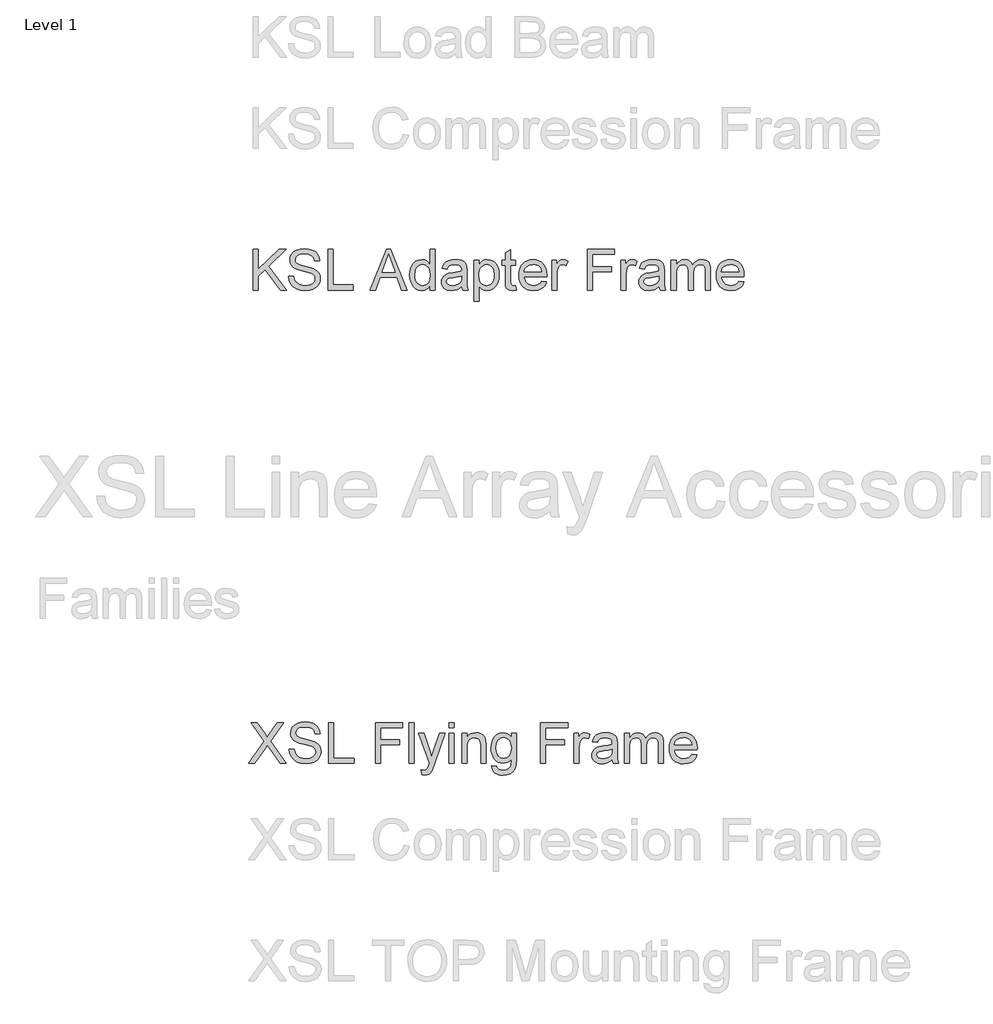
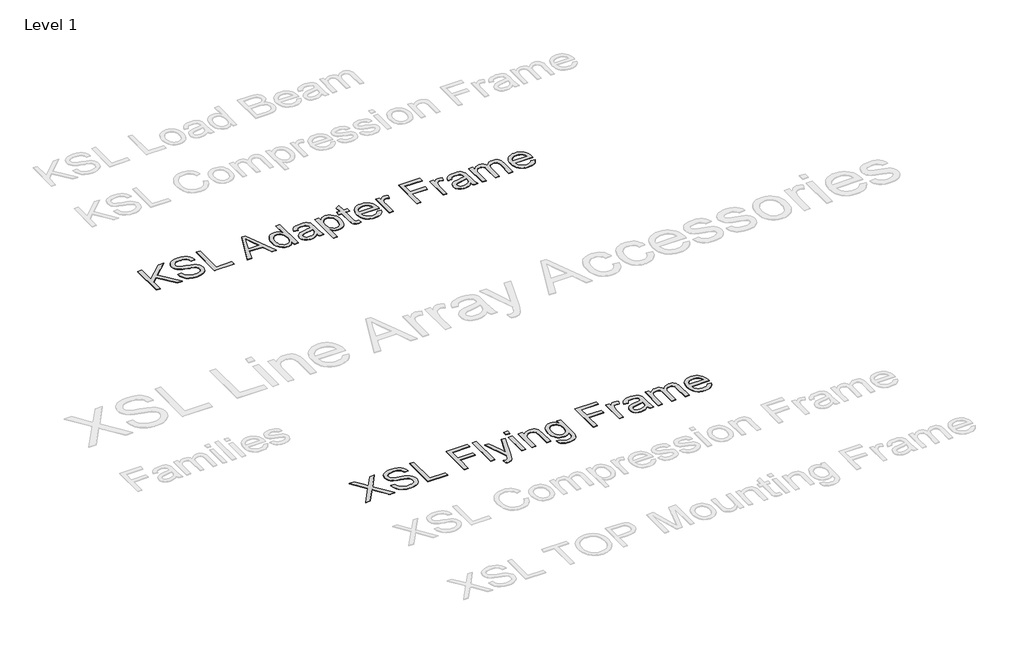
# One storey, part 9 of 52: 2 proxies.
"""IFC4 building model written with IfcOpenShell, lengths in millimetres."""

from ifc_helpers import new_model, si_unit, origin, origin_with_axes, place, context, project, spatial, polyline, outline, extrude, element, save

model = new_model("IFC4")

# Units and contexts
model_context = context("Model", 3, world=origin())
ifc_project = project(units=[si_unit("LENGTHUNIT", "METRE", prefix="MILLI")], contexts=[model_context])

# Site, building, storey
site = spatial("IfcSite", under=ifc_project)
building = spatial("IfcBuilding", under=site)
storey = spatial("IfcBuildingStorey", under=building, Name="Level 1", Elevation=0.0)

# Proxies
placement = place(None, origin())
element("IfcBuildingElementProxy", 1, Name="400mm Arial", ObjectType="400mm Arial", at=placement, inside=storey, context=model_context, shape_type="SweptSolid", body=[
    extrude(outline(polyline([(-18951.0715058, -58022.6117308), (-18951.0715058, -57620.7864902), (-18900.8433507, -57620.7864902), (-18900.8433507, -57817.4807303), (-18694.8294334, -57620.7864902), (-18624.5884978, -57620.7864902), (-18797.5420864, -57785.9900315), (-18618.3099784, -58022.6117308), (-18679.7217461, -58022.6117308), (-18833.1530636, -57819.933277), (-18900.8433507, -57884.4843044), (-18900.8433507, -58022.6117308), (-18951.0715058, -58022.6117308)])), origin_with_axes(), (0.0, 0.0, 1.0), 5.0),
    extrude(outline(polyline([(-18599.4744202, -57884.4843044), (-18549.2462652, -57884.4843044), (-18543.4827806, -57912.3574969), (-18533.0594574, -57934.7615104), (-18516.7990732, -57952.5424735), (-18493.5244056, -57966.5465148), (-18465.0748647, -57975.6332001), (-18433.2898603, -57978.6620952), (-18405.3063032, -57976.3689641), (-18380.8053623, -57969.4895707), (-18360.9519973, -57958.6002637), (-18346.9111678, -57944.2773913), (-18338.5602465, -57927.8330662), (-18335.7766061, -57910.5794006), (-18337.8612707, -57893.7671934), (-18344.1152646, -57879.2358546), (-18356.8194562, -57866.8382314), (-18378.2547138, -57856.4271709), (-18451.3896544, -57837.2482562), (-18499.3982548, -57824.5563274), (-18530.1164014, -57812.4775352), (-18555.1201143, -57795.5794889), (-18572.8397638, -57775.1007245), (-18583.397977, -57751.4827004), (-18586.9173815, -57725.166875), (-18582.5641112, -57695.7485781), (-18569.5043004, -57668.316844), (-18548.0813055, -57645.0667019), (-18518.6384832, -57628.1931811), (-18483.2972862, -57617.9292734), (-18444.1791673, -57614.5079709), (-18401.7991615, -57618.0886889), (-18364.7166564, -57628.8308432), (-18334.2560272, -57646.5137044), (-18311.7416491, -57670.9165435), (-18297.4923531, -57700.5187813), (-18291.8269704, -57733.7998392), (-18342.0551255, -57733.7998392), (-18351.2767008, -57703.8297193), (-18359.6398848, -57691.9716563), (-18370.5046664, -57682.198258), (-18400.5483627, -57669.1016589), (-18442.21713, -57664.7361259), (-18484.866916, -57669.052608), (-18501.1702198, -57674.4482106), (-18514.1257973, -57682.0020542), (-18531.0483691, -57701.0583416), (-18536.6892264, -57723.695347), (-18532.6915754, -57742.996889), (-18520.6986223, -57758.5215092), (-18492.3471832, -57772.4029232), (-18438.6854629, -57786.5786427), (-18383.3069599, -57800.0431238), (-18349.8051728, -57811.7908221), (-18321.1716909, -57830.0132436), (-18301.1956985, -57852.5030963), (-18289.4602629, -57879.0151254), (-18285.548451, -57909.3040763), (-18290.0488741, -57940.2674776), (-18303.5501433, -57969.3914689), (-18325.5004357, -57994.4564955), (-18355.3479282, -58013.2430027), (-18391.2409482, -58024.9784383), (-18431.327823, -58028.8902502), (-18480.5381712, -58024.67187), (-18521.0419789, -58012.0167294), (-18553.3052298, -57990.8757774), (-18577.793908, -57961.1999631), (-18593.5147319, -57925.0494257), (-18599.4744202, -57884.4843044)])), origin_with_axes(), (0.0, 0.0, 1.0), 5.0),
    extrude(outline(polyline([(-18210.2062184, -58022.6117308), (-18210.2062184, -57620.7864902), (-18159.9780633, -57620.7864902), (-18159.9780633, -57972.3835758), (-17959.065443, -57972.3835758), (-17959.065443, -58022.6117308), (-18210.2062184, -58022.6117308)])), origin_with_axes(), (0.0, 0.0, 1.0), 5.0),
    extrude(outline(polyline([(-17792.3903737, -58022.6117308), (-17631.9938238, -57620.7864902), (-17589.2214105, -57620.7864902), (-17428.8248606, -58022.6117308), (-17481.8979698, -58022.6117308), (-17527.9077447, -57897.0413432), (-17693.4055916, -57897.0413432), (-17739.3172646, -58022.6117308), (-17792.3903737, -58022.6117308)]), holes=[polyline([(-17674.9624409, -57846.8131881), (-17546.2527935, -57846.8131881), (-17582.4523818, -57748.0246096), (-17610.6076172, -57671.0146453), (-17635.6235929, -57739.3916455), (-17674.9624409, -57846.8131881)])]), origin_with_axes(), (0.0, 0.0, 1.0), 5.0),
    extrude(outline(polyline([(-17199.3645975, -58022.6117308), (-17199.3645975, -57975.2285299), (-17214.392577, -57998.7055325), (-17232.5966044, -58015.4748201), (-17253.9766797, -58025.5363927), (-17278.5328029, -58028.8902502), (-17311.0045203, -58024.0342079), (-17340.7293855, -58009.4660809), (-17365.892514, -57986.2036761), (-17384.6790212, -57955.2648003), (-17396.3776687, -57917.9002523), (-17400.2772178, -57875.3608309), (-17396.684237, -57833.3487071), (-17385.9052945, -57795.4078106), (-17367.9526532, -57763.6963826), (-17342.8385756, -57740.3726641), (-17312.4637856, -57726.0252663), (-17278.7290066, -57721.2428004), (-17254.1544893, -57724.664103), (-17232.4249262, -57734.9280106), (-17214.0063009, -57750.6610973), (-17199.3645975, -57770.4899368), (-17199.3645975, -57620.7864902), (-17149.1364424, -57620.7864902), (-17149.1364424, -58022.6117308), (-17199.3645975, -58022.6117308)]), holes=[polyline([(-17350.0490627, -57875.1646272), (-17348.6327171, -57899.5214809), (-17344.38368, -57920.5980536), (-17337.3019516, -57938.3943451), (-17327.3875318, -57952.9103555), (-17302.6903872, -57972.2241602), (-17288.8151046, -57977.0526114), (-17273.9220152, -57978.6620952), (-17258.9584151, -57977.1261878), (-17245.1659059, -57972.5184658), (-17221.0941607, -57954.0875779), (-17211.5874768, -57940.1785728), (-17204.7969883, -57923.0260748), (-17199.3645975, -57878.9905999), (-17204.8950902, -57830.8471095), (-17211.808206, -57812.3119883), (-17221.4865682, -57797.4679498), (-17233.1882813, -57786.0942648), (-17246.17145, -57777.9702041), (-17260.4360744, -57773.0957676), (-17275.9821544, -57771.4709555), (-17291.1695494, -57773.0313883), (-17305.044832, -57777.7126867), (-17317.6080021, -57785.5148506), (-17328.8590598, -57796.4378802), (-17338.1296861, -57810.7208987), (-17344.751562, -57828.6030293), (-17350.0490627, -57875.1646272)])]), origin_with_axes(), (0.0, 0.0, 1.0), 5.0),
    extrude(outline(polyline([(-16885.4386283, -57984.9406145), (-16909.4367971, -58005.5174808), (-16934.1462045, -58018.9819618), (-16960.1309361, -58026.4131781), (-16987.9550776, -58028.8902502), (-17010.3192372, -58027.4003281), (-17029.9304133, -58022.9305619), (-17046.7886057, -58015.4809515), (-17060.8938145, -58005.0514969), (-17072.0314419, -57992.3043858), (-17079.9868901, -57977.9018057), (-17084.760159, -57961.8437566), (-17086.3512486, -57944.1302385), (-17083.9477529, -57923.3081176), (-17076.7372658, -57904.3989831), (-17065.6149668, -57888.2121753), (-17051.4760355, -57875.5570346), (-17034.860032, -57865.9921028), (-17016.3065167, -57859.0759213), (-16972.8473904, -57851.5220776), (-16921.4910638, -57843.5758265), (-16885.7329339, -57834.2561493), (-16885.4386283, -57823.0725367), (-16888.8967191, -57800.6562604), (-16899.2709913, -57785.9900315), (-16922.4720825, -57775.1007245), (-16954.7966471, -57771.4709555), (-16984.7177161, -57773.8867139), (-17005.6134134, -57781.1339892), (-17019.8627093, -57794.5371566), (-17029.8445741, -57815.4205912), (-17080.0727292, -57809.1420718), (-17071.3539259, -57781.6735495), (-17058.343166, -57760.0911391), (-17039.8264389, -57743.5855002), (-17014.5897341, -57731.3472925), (-16983.7244347, -57723.7689234), (-16948.321924, -57721.2428004), (-16914.3664159, -57723.4746178), (-16887.4497165, -57730.1700701), (-16867.1548931, -57740.2377741), (-16853.0650127, -57752.5863464), (-16843.72081, -57767.8534492), (-16837.6630199, -57786.6767446), (-16835.2104732, -57830.6263803), (-16835.2104732, -57893.1172685), (-16832.6598247, -57980.3788778), (-16822.6534345, -58022.6117308), (-16872.8815895, -58022.6117308), (-16880.9259425, -58005.1495988), (-16885.4386283, -57984.9406145)]), holes=[polyline([(-16885.4386283, -57884.4843044), (-16919.18567, -57892.8474884), (-16966.4707691, -57899.8862973), (-17009.6846408, -57908.0287521), (-17020.9295671, -57913.5960329), (-17029.2559629, -57921.2725039), (-17034.4063109, -57930.4695538), (-17036.1230935, -57940.5985714), (-17032.3829599, -57955.5345804), (-17021.1625591, -57967.7727881), (-17002.7071456, -57975.9397684), (-16977.2619743, -57978.6620952), (-16950.2839613, -57975.6577255), (-16926.445208, -57966.6446166), (-16907.1191406, -57953.3640766), (-16893.679185, -57937.5574136), (-16887.7194967, -57921.2725039), (-16885.7329339, -57898.7090749), (-16885.4386283, -57884.4843044)])]), origin_with_axes(), (0.0, 0.0, 1.0), 5.0),
    extrude(outline(polyline([(-16766.14676, -58135.6250798), (-16766.14676, -57727.5213198), (-16715.9186049, -57727.5213198), (-16715.9186049, -57776.7684562), (-16699.5355934, -57752.4759818), (-16681.1905446, -57735.1242143), (-16659.8043379, -57724.7131539), (-16634.2978529, -57721.2428004), (-16600.330082, -57726.0988427), (-16570.6297423, -57740.6669697), (-16546.4476325, -57764.0642646), (-16529.0345514, -57795.4078106), (-16518.5131263, -57832.4167393), (-16515.0059846, -57872.8101824), (-16518.9668474, -57915.7665367), (-16530.8494359, -57954.1856797), (-16550.2736052, -57986.1178369), (-16576.8592107, -58009.6132337), (-16607.822612, -58024.0709961), (-16640.3801686, -58028.8902502), (-16663.4708951, -58025.6651514), (-16684.0845496, -58015.9898549), (-16701.7306226, -58001.3849397), (-16715.9186049, -57983.3709847), (-16715.9186049, -58135.6250798), (-16766.14676, -58135.6250798)]), holes=[polyline([(-16715.9186049, -57877.4209701), (-16710.4862141, -57922.4497263), (-16703.6957256, -57939.8873329), (-16694.1890417, -57953.9404251), (-16670.141822, -57972.4816776), (-16656.3799697, -57977.1169908), (-16641.4592891, -57978.6620952), (-16626.3240107, -57977.0618085), (-16612.3107723, -57972.2609484), (-16599.4195741, -57964.259515), (-16587.6504159, -57953.0575083), (-16577.8432951, -57938.4955126), (-16570.8382088, -57920.4141126), (-16566.635157, -57898.8133081), (-16565.2341397, -57873.6930992), (-16570.7033187, -57828.9095977), (-16577.5397924, -57811.337101), (-16587.1108557, -57796.9774405), (-16611.1212872, -57777.8475767), (-16624.7267897, -57773.0651108), (-16639.3991499, -57771.4709555), (-16654.0255249, -57773.1662783), (-16667.7873772, -57778.2522469), (-16692.7175138, -57798.5961212), (-16702.8679911, -57813.6946115), (-16710.1183321, -57831.8649163), (-16714.4685367, -57853.1070359), (-16715.9186049, -57877.4209701)])]), origin_with_axes(), (0.0, 0.0, 1.0), 5.0),
    extrude(outline(polyline([(-16351.7644806, -57980.7222343), (-16345.4859612, -58024.0832588), (-16383.0589757, -58028.8902502), (-16407.1675091, -58026.8055856), (-16425.1446759, -58020.5515917), (-16437.8488675, -58010.9130834), (-16446.1384751, -57998.6748757), (-16450.7002119, -57977.656551), (-16452.2207908, -57941.6776919), (-16452.2207908, -57777.7494749), (-16489.8919071, -57777.7494749), (-16489.8919071, -57727.5213198), (-16452.2207908, -57727.5213198), (-16452.2207908, -57655.8088562), (-16401.9926357, -57626.2801947), (-16401.9926357, -57727.5213198), (-16351.7644806, -57727.5213198), (-16351.7644806, -57777.7494749), (-16401.9926357, -57777.7494749), (-16401.9926357, -57940.2061639), (-16399.3438853, -57966.1050564), (-16390.7599721, -57975.2775808), (-16373.6411966, -57978.6620952), (-16351.7644806, -57980.7222343)])), origin_with_axes(), (0.0, 0.0, 1.0), 5.0),
    extrude(outline(polyline([(-16094.9337971, -57934.7124595), (-16045.6866606, -57940.9909788), (-16053.2374386, -57960.7155852), (-16063.4308355, -57978.0980094), (-16076.2668515, -57993.1382517), (-16091.7454864, -58005.8363119), (-16109.7073249, -58015.9224099), (-16129.9929512, -58023.1267656), (-16177.5355677, -58028.8902502), (-16208.7013041, -58026.4039811), (-16236.4702633, -58018.9451736), (-16260.8424455, -58006.5138279), (-16281.8178506, -57989.1099438), (-16298.6852401, -57967.2178994), (-16310.7333754, -57941.3220726), (-16317.9622566, -57911.4224635), (-16320.3718837, -57877.5190719), (-16317.9377312, -57842.4660492), (-16310.6352736, -57811.5700929), (-16298.4645109, -57784.8312033), (-16281.4254432, -57762.2493801), (-16260.5052204, -57744.3090015), (-16236.6909925, -57731.4944453), (-16209.9827597, -57723.8057116), (-16180.3805218, -57721.2428004), (-16151.7317114, -57723.7995803), (-16125.8236219, -57731.4699199), (-16102.6562533, -57744.2538192), (-16082.2296055, -57762.1512783), (-16065.5553541, -57784.6840505), (-16053.6451745, -57811.3738892), (-16046.4990667, -57842.2207945), (-16044.1170308, -57877.2247664), (-16044.4113364, -57890.7628238), (-16270.1437286, -57890.7628238), (-16267.2343952, -57910.8062611), (-16261.4494508, -57928.3603637), (-16252.7888955, -57943.4251314), (-16241.2527293, -57956.0005643), (-16227.4786142, -57965.914984), (-16212.1042125, -57972.9967124), (-16176.5545491, -57978.6620952), (-16149.8217907, -57976.0378703), (-16127.3074126, -57968.1651956), (-16109.0114147, -57954.5535617), (-16094.9337971, -57934.7124595)]), holes=[polyline([(-16270.1437286, -57840.5346687), (-16094.3451859, -57840.5346687), (-16101.1387401, -57813.9981141), (-16114.4560683, -57795.0154032), (-16128.1535412, -57784.7147073), (-16143.7394751, -57777.3570674), (-16161.2138699, -57772.9424835), (-16180.5767255, -57771.4709555), (-16214.4341318, -57776.1675823), (-16242.4299517, -57790.2574627), (-16261.8909092, -57812.2200178), (-16270.1437286, -57840.5346687)])]), origin_with_axes(), (0.0, 0.0, 1.0), 5.0),
    extrude(outline(polyline([(-15993.8888757, -58022.6117308), (-15993.8888757, -57727.5213198), (-15949.93924, -57727.5213198), (-15949.93924, -57771.1766499), (-15933.7033813, -57745.8663686), (-15918.7428468, -57730.9548851), (-15903.7332614, -57723.6708216), (-15887.3502499, -57721.2428004), (-15862.3342742, -57725.1178241), (-15836.9258911, -57736.7428951), (-15853.7013101, -57781.7716513), (-15871.3596459, -57774.0461294), (-15889.0179816, -57771.4709555), (-15904.0153043, -57773.9480276), (-15917.4184717, -57781.3792439), (-15928.2464651, -57793.2005187), (-15935.5182658, -57808.8477662), (-15941.6251069, -57836.9048997), (-15943.6607206, -57867.5126817), (-15943.6607206, -58022.6117308), (-15993.8888757, -58022.6117308)])), origin_with_axes(), (0.0, 0.0, 1.0), 5.0),
    extrude(outline(polyline([(-15642.2917902, -58022.6117308), (-15642.2917902, -57620.7864902), (-15372.3154567, -57620.7864902), (-15372.3154567, -57671.0146453), (-15592.0636351, -57671.0146453), (-15592.0636351, -57790.3065136), (-15403.7080536, -57790.3065136), (-15403.7080536, -57840.5346687), (-15592.0636351, -57840.5346687), (-15592.0636351, -58022.6117308), (-15642.2917902, -58022.6117308)])), origin_with_axes(), (0.0, 0.0, 1.0), 5.0),
    extrude(outline(polyline([(-15309.5302628, -58022.6117308), (-15309.5302628, -57727.5213198), (-15265.5806271, -57727.5213198), (-15265.5806271, -57771.1766499), (-15249.3447684, -57745.8663686), (-15234.3842339, -57730.9548851), (-15219.3746485, -57723.6708216), (-15202.991637, -57721.2428004), (-15177.9756614, -57725.1178241), (-15152.5672782, -57736.7428951), (-15169.3426972, -57781.7716513), (-15187.001033, -57774.0461294), (-15204.6593687, -57771.4709555), (-15219.6566914, -57773.9480276), (-15233.0598588, -57781.3792439), (-15243.8878522, -57793.2005187), (-15251.1596529, -57808.8477662), (-15257.266494, -57836.9048997), (-15259.3021078, -57867.5126817), (-15259.3021078, -58022.6117308), (-15309.5302628, -58022.6117308)])), origin_with_axes(), (0.0, 0.0, 1.0), 5.0),
    extrude(outline(polyline([(-14932.8190998, -57984.9406145), (-14956.8172686, -58005.5174808), (-14981.5266759, -58018.9819618), (-15007.5114075, -58026.4131781), (-15035.3355491, -58028.8902502), (-15057.6997087, -58027.4003281), (-15077.3108847, -58022.9305619), (-15094.1690772, -58015.4809515), (-15108.274286, -58005.0514969), (-15119.4119134, -57992.3043858), (-15127.3673616, -57977.9018057), (-15132.1406304, -57961.8437566), (-15133.7317201, -57944.1302385), (-15131.3282244, -57923.3081176), (-15124.1177373, -57904.3989831), (-15112.9954383, -57888.2121753), (-15098.8565069, -57875.5570346), (-15082.2405035, -57865.9921028), (-15063.6869882, -57859.0759213), (-15020.2278618, -57851.5220776), (-14968.8715353, -57843.5758265), (-14933.1134054, -57834.2561493), (-14932.8190998, -57823.0725367), (-14936.2771905, -57800.6562604), (-14946.6514628, -57785.9900315), (-14969.8525539, -57775.1007245), (-15002.1771186, -57771.4709555), (-15032.0981875, -57773.8867139), (-15052.9938849, -57781.1339892), (-15067.2431808, -57794.5371566), (-15077.2250456, -57815.4205912), (-15127.4532007, -57809.1420718), (-15118.7343974, -57781.6735495), (-15105.7236375, -57760.0911391), (-15087.2069104, -57743.5855002), (-15061.9702055, -57731.3472925), (-15031.1049061, -57723.7689234), (-14995.7023955, -57721.2428004), (-14961.7468873, -57723.4746178), (-14934.830188, -57730.1700701), (-14914.5353646, -57740.2377741), (-14900.4454842, -57752.5863464), (-14891.1012815, -57767.8534492), (-14885.0434913, -57786.6767446), (-14882.5909447, -57830.6263803), (-14882.5909447, -57893.1172685), (-14880.0402962, -57980.3788778), (-14870.0339059, -58022.6117308), (-14920.262061, -58022.6117308), (-14928.306414, -58005.1495988), (-14932.8190998, -57984.9406145)]), holes=[polyline([(-14932.8190998, -57884.4843044), (-14966.5661415, -57892.8474884), (-15013.8512406, -57899.8862973), (-15057.0651123, -57908.0287521), (-15068.3100386, -57913.5960329), (-15076.6364344, -57921.2725039), (-15081.7867823, -57930.4695538), (-15083.503565, -57940.5985714), (-15079.7634314, -57955.5345804), (-15068.5430305, -57967.7727881), (-15050.0876171, -57975.9397684), (-15024.6424458, -57978.6620952), (-14997.6644328, -57975.6577255), (-14973.8256795, -57966.6446166), (-14954.499612, -57953.3640766), (-14941.0596565, -57937.5574136), (-14935.0999681, -57921.2725039), (-14933.1134054, -57898.7090749), (-14932.8190998, -57884.4843044)])]), origin_with_axes(), (0.0, 0.0, 1.0), 5.0),
    extrude(outline(polyline([(-14813.5272315, -58022.6117308), (-14813.5272315, -57727.5213198), (-14763.2990764, -57727.5213198), (-14763.2990764, -57776.0817431), (-14748.1913891, -57753.7758315), (-14728.7672198, -57736.3014367), (-14705.6887559, -57725.0074595), (-14679.6181852, -57721.2428004), (-14651.6836791, -57725.0810359), (-14629.2919283, -57736.5957423), (-14612.5655602, -57755.0266303), (-14601.6272022, -57779.6134103), (-14583.3189416, -57754.0762685), (-14562.435507, -57735.8354529), (-14538.9768985, -57724.8909635), (-14512.9431159, -57721.2428004), (-14492.8352992, -57722.7603136), (-14475.1861605, -57727.3128533), (-14459.9956998, -57734.9004195), (-14447.2639171, -57745.5230121), (-14437.1992788, -57759.3032585), (-14430.0102515, -57776.363786), (-14425.6968351, -57796.7045947), (-14424.2590296, -57820.3256844), (-14424.2590296, -58022.6117308), (-14474.4871847, -58022.6117308), (-14474.4871847, -57841.9080948), (-14475.6521444, -57816.8553309), (-14479.1470233, -57799.9695474), (-14485.6953228, -57788.40579), (-14496.0205442, -57779.3191047), (-14509.3010842, -57773.4329928), (-14524.7153398, -57771.4709555), (-14551.9263447, -57776.4986761), (-14574.109629, -57791.5818379), (-14582.715002, -57803.1517266), (-14588.861697, -57817.7505105), (-14593.779053, -57856.0347634), (-14593.779053, -58022.6117308), (-14644.0072081, -58022.6117308), (-14644.0072081, -57836.3162885), (-14646.9134759, -57807.9157985), (-14655.6322791, -57787.6577633), (-14670.9729583, -57775.5176574), (-14693.7448538, -57771.4709555), (-14713.0954468, -57774.1687568), (-14730.9254608, -57782.2621607), (-14745.6407406, -57795.5549634), (-14755.6471309, -57813.8509613), (-14761.38609, -57839.234819), (-14763.2990764, -57873.7912011), (-14763.2990764, -58022.6117308), (-14813.5272315, -58022.6117308)])), origin_with_axes(), (0.0, 0.0, 1.0), 5.0),
    extrude(outline(polyline([(-14142.3142685, -57934.7124595), (-14093.0671321, -57940.9909788), (-14100.6179101, -57960.7155852), (-14110.811307, -57978.0980094), (-14123.647323, -57993.1382517), (-14139.1259579, -58005.8363119), (-14157.0877963, -58015.9224099), (-14177.3734227, -58023.1267656), (-14224.9160392, -58028.8902502), (-14256.0817755, -58026.4039811), (-14283.8507348, -58018.9451736), (-14308.222917, -58006.5138279), (-14329.1983221, -57989.1099438), (-14346.0657116, -57967.2178994), (-14358.1138469, -57941.3220726), (-14365.3427281, -57911.4224635), (-14367.7523552, -57877.5190719), (-14365.3182026, -57842.4660492), (-14358.015745, -57811.5700929), (-14345.8449824, -57784.8312033), (-14328.8059146, -57762.2493801), (-14307.8856918, -57744.3090015), (-14284.071464, -57731.4944453), (-14257.3632312, -57723.8057116), (-14227.7609933, -57721.2428004), (-14199.1121829, -57723.7995803), (-14173.2040934, -57731.4699199), (-14150.0367247, -57744.2538192), (-14129.610077, -57762.1512783), (-14112.9358255, -57784.6840505), (-14101.0256459, -57811.3738892), (-14093.8795382, -57842.2207945), (-14091.4975023, -57877.2247664), (-14091.7918079, -57890.7628238), (-14317.5242001, -57890.7628238), (-14314.6148667, -57910.8062611), (-14308.8299223, -57928.3603637), (-14300.169367, -57943.4251314), (-14288.6332007, -57956.0005643), (-14274.8590857, -57965.914984), (-14259.484684, -57972.9967124), (-14223.9350205, -57978.6620952), (-14197.2022622, -57976.0378703), (-14174.6878841, -57968.1651956), (-14156.3918862, -57954.5535617), (-14142.3142685, -57934.7124595)]), holes=[polyline([(-14317.5242001, -57840.5346687), (-14141.7256573, -57840.5346687), (-14148.5192115, -57813.9981141), (-14161.8365397, -57795.0154032), (-14175.5340127, -57784.7147073), (-14191.1199466, -57777.3570674), (-14208.5943413, -57772.9424835), (-14227.957197, -57771.4709555), (-14261.8146033, -57776.1675823), (-14289.8104231, -57790.2574627), (-14309.2713807, -57812.2200178), (-14317.5242001, -57840.5346687)])]), origin_with_axes(), (0.0, 0.0, 1.0), 5.0),
])
element("IfcBuildingElementProxy", 2, Name="400mm Arial", ObjectType="400mm Arial", at=placement, inside=storey, context=model_context, shape_type="SweptSolid", body=[
    extrude(outline(polyline([(-18995.0211414, -62703.132514), (-18840.118296, -62484.1691504), (-18969.9070639, -62301.3072734), (-18909.6725186, -62301.3072734), (-18836.5866289, -62404.2161301), (-18811.9630606, -62444.3397931), (-18783.1211122, -62403.5294171), (-18710.8200374, -62301.3072734), (-18649.7025753, -62301.3072734), (-18779.4913432, -62484.7577616), (-18624.5884978, -62703.132514), (-18684.8230431, -62703.132514), (-18788.0262055, -62557.5493457), (-18809.510514, -62527.3339712), (-18833.1530636, -62560.4924017), (-18933.9036793, -62703.132514), (-18995.0211414, -62703.132514)])), origin_with_axes(), (0.0, 0.0, 1.0), 5.0),
    extrude(outline(polyline([(-18593.1959008, -62565.0050875), (-18542.9677458, -62565.0050875), (-18537.2042612, -62592.87828), (-18526.780938, -62615.2822935), (-18510.5205538, -62633.0632566), (-18487.2458862, -62647.0672979), (-18458.7963453, -62656.1539832), (-18427.0113409, -62659.1828783), (-18399.0277838, -62656.8897472), (-18374.5268429, -62650.0103539), (-18354.6734779, -62639.1210468), (-18340.6326484, -62624.7981745), (-18332.2817271, -62608.3538493), (-18329.4980867, -62591.1001837), (-18331.5827513, -62574.2879765), (-18337.8367453, -62559.7566377), (-18350.5409368, -62547.3590145), (-18371.9761944, -62536.947954), (-18445.1111351, -62517.7690393), (-18493.1197354, -62505.0771105), (-18523.837882, -62492.9983183), (-18548.841595, -62476.100272), (-18566.5612444, -62455.6215076), (-18577.1194577, -62432.0034835), (-18580.6388621, -62405.6876581), (-18576.2855918, -62376.2693612), (-18563.225781, -62348.8376271), (-18541.8027861, -62325.587485), (-18512.3599638, -62308.7139642), (-18477.0187668, -62298.4500565), (-18437.9006479, -62295.028754), (-18395.5206421, -62298.6094721), (-18358.438137, -62309.3516263), (-18327.9775078, -62327.0344876), (-18305.4631297, -62351.4373266), (-18291.2138337, -62381.0395645), (-18285.548451, -62414.3206223), (-18335.7766061, -62414.3206223), (-18344.9981814, -62384.3505024), (-18353.3613655, -62372.4924394), (-18364.226147, -62362.7190411), (-18394.2698433, -62349.6224421), (-18435.9386106, -62345.2569091), (-18478.5883966, -62349.5733911), (-18494.8917004, -62354.9689937), (-18507.847278, -62362.5228374), (-18524.7698497, -62381.5791247), (-18530.410707, -62404.2161301), (-18526.413056, -62423.5176722), (-18514.4201029, -62439.0422924), (-18486.0686638, -62452.9237063), (-18432.4069435, -62467.0994259), (-18377.0284405, -62480.5639069), (-18343.5266535, -62492.3116053), (-18314.8931715, -62510.5340268), (-18294.9171792, -62533.0238794), (-18283.1817435, -62559.5359085), (-18279.2699316, -62589.8248594), (-18283.7703547, -62620.7882607), (-18297.2716239, -62649.912252), (-18319.2219163, -62674.9772786), (-18349.0694088, -62693.7637858), (-18384.9624288, -62705.4992215), (-18425.0493036, -62709.4110333), (-18474.2596518, -62705.1926531), (-18514.7634595, -62692.5375125), (-18547.0267105, -62671.3965605), (-18571.5153886, -62641.7207462), (-18587.2362125, -62605.5702088), (-18593.1959008, -62565.0050875)])), origin_with_axes(), (0.0, 0.0, 1.0), 5.0),
    extrude(outline(polyline([(-18203.927699, -62703.132514), (-18203.927699, -62301.3072734), (-18153.6995439, -62301.3072734), (-18153.6995439, -62652.9043589), (-17952.7869236, -62652.9043589), (-17952.7869236, -62703.132514), (-18203.927699, -62703.132514)])), origin_with_axes(), (0.0, 0.0, 1.0), 5.0),
    extrude(outline(polyline([(-17739.3172646, -62703.132514), (-17739.3172646, -62301.3072734), (-17469.340931, -62301.3072734), (-17469.340931, -62351.5354284), (-17689.0891095, -62351.5354284), (-17689.0891095, -62470.8272967), (-17500.733528, -62470.8272967), (-17500.733528, -62521.0554518), (-17689.0891095, -62521.0554518), (-17689.0891095, -62703.132514), (-17739.3172646, -62703.132514)])), origin_with_axes(), (0.0, 0.0, 1.0), 5.0),
    extrude(outline(polyline([(-17406.5557372, -62703.132514), (-17406.5557372, -62301.3072734), (-17356.3275821, -62301.3072734), (-17356.3275821, -62703.132514), (-17406.5557372, -62703.132514)])), origin_with_axes(), (0.0, 0.0, 1.0), 5.0),
    extrude(outline(polyline([(-17280.9853495, -62816.1458629), (-17287.2638689, -62767.7816432), (-17261.7573839, -62772.1962272), (-17248.3419538, -62770.8105383), (-17237.9186306, -62766.6534718), (-17223.3014527, -62751.202428), (-17209.5671915, -62714.2180248), (-17205.6431169, -62702.0533934), (-17312.3779464, -62408.0421029), (-17259.4029391, -62408.0421029), (-17202.7981628, -62571.8722181), (-17183.0796879, -62637.4042642), (-17163.3612129, -62579.5241636), (-17105.1868068, -62408.0421029), (-17052.6042069, -62408.0421029), (-17155.31686, -62710.1958483), (-17182.0005673, -62775.7278943), (-17195.6612521, -62796.6481171), (-17211.1368214, -62811.1426677), (-17229.1139882, -62819.6039536), (-17250.2794657, -62822.4243823), (-17280.9853495, -62816.1458629)])), origin_with_axes(), (0.0, 0.0, 1.0), 5.0),
    extrude(outline(polyline([(-17011.009016, -62351.5354284), (-17011.009016, -62301.3072734), (-16960.7808609, -62301.3072734), (-16960.7808609, -62351.5354284), (-17011.009016, -62351.5354284)])), origin_with_axes(), (0.0, 0.0, 1.0), 5.0),
    extrude(outline(polyline([(-17011.009016, -62703.132514), (-17011.009016, -62408.0421029), (-16960.7808609, -62408.0421029), (-16960.7808609, -62703.132514), (-17011.009016, -62703.132514)])), origin_with_axes(), (0.0, 0.0, 1.0), 5.0),
    extrude(outline(polyline([(-16885.4386283, -62703.132514), (-16885.4386283, -62408.0421029), (-16835.2104732, -62408.0421029), (-16835.2104732, -62449.2448864), (-16817.7606039, -62428.4718164), (-16796.8035929, -62413.6339092), (-16772.3394403, -62404.7311649), (-16744.3681459, -62401.7635835), (-16719.6096876, -62404.1548165), (-16696.935894, -62411.3285154), (-16678.0267594, -62422.3895007), (-16664.5622784, -62436.4425929), (-16655.4265422, -62453.4510038), (-16649.5036421, -62473.3779452), (-16646.8548917, -62521.9383686), (-16646.8548917, -62703.132514), (-16697.0830468, -62703.132514), (-16697.0830468, -62528.7073973), (-16698.5300493, -62502.7349285), (-16702.8710568, -62484.2672523), (-16710.8786216, -62471.0357632), (-16723.3252958, -62460.7718555), (-16739.2791116, -62454.1867678), (-16757.8081014, -62451.9917386), (-16787.2263983, -62456.9213573), (-16812.3036877, -62471.7102135), (-16822.3254063, -62483.7828743), (-16829.4837768, -62500.2823818), (-16833.7787991, -62521.208736), (-16835.2104732, -62546.5619368), (-16835.2104732, -62703.132514), (-16885.4386283, -62703.132514)])), origin_with_axes(), (0.0, 0.0, 1.0), 5.0),
    extrude(outline(polyline([(-16590.3482172, -62728.2465915), (-16540.1200622, -62734.5251109), (-16534.5773068, -62750.2214093), (-16523.8351525, -62761.0126145), (-16502.718726, -62769.400324), (-16475.0785254, -62772.1962272), (-16445.5989149, -62769.032442), (-16423.673148, -62759.5410866), (-16408.4673588, -62744.3352974), (-16399.1476816, -62724.0282113), (-16395.7141163, -62665.4613977), (-16412.4282216, -62681.942511), (-16431.0798388, -62693.7147349), (-16451.6689678, -62700.7780692), (-16474.1956086, -62703.132514), (-16501.7346416, -62700.3917931), (-16525.9811308, -62692.1696305), (-16546.9350761, -62678.4660262), (-16564.5964776, -62659.2809801), (-16578.6097159, -62636.26383), (-16588.6191719, -62611.0639133), (-16594.6248454, -62583.6812301), (-16596.6267366, -62554.1157805), (-16593.0337558, -62513.5629218), (-16582.2548133, -62476.2719503), (-16564.670054, -62444.6708869), (-16540.6596224, -62421.1877529), (-16511.0451218, -62406.6196259), (-16476.6481553, -62401.7635835), (-16453.1588899, -62404.5104357), (-16431.8401282, -62412.7509924), (-16412.6918704, -62426.4852536), (-16395.7141163, -62445.7132192), (-16395.7141163, -62408.0421029), (-16345.4859612, -62408.0421029), (-16345.4859612, -62662.8126473), (-16348.9195265, -62721.6369783), (-16359.2202224, -62760.3749524), (-16376.9643973, -62786.0653784), (-16402.7283997, -62805.7470652), (-16435.9481439, -62818.255053), (-16476.0595441, -62822.4243823), (-16500.6677839, -62820.95592), (-16522.7928202, -62816.5505331), (-16542.434653, -62809.2082216), (-16559.5932824, -62798.9289855), (-16573.4532366, -62785.7005621), (-16583.1990438, -62769.5106886), (-16588.830704, -62750.3593651), (-16590.3482172, -62728.2465915)]), holes=[polyline([(-16546.3985815, -62550.6822152), (-16541.0397672, -62596.7533037), (-16534.3412492, -62614.3901797), (-16524.963324, -62628.4279435), (-16513.5620478, -62639.1363752), (-16500.7934769, -62646.785255), (-16486.6576112, -62651.3745829), (-16471.1544508, -62652.9043589), (-16455.8045746, -62651.38378), (-16441.7361539, -62646.8220432), (-16428.9491889, -62639.2191487), (-16417.4436795, -62628.5750963), (-16407.9369956, -62614.6752882), (-16401.1465071, -62597.3051267), (-16395.7141163, -62552.1537431), (-16401.3059226, -62508.6087776), (-16408.2956806, -62491.4072287), (-16418.0813416, -62477.2529689), (-16429.8351714, -62466.2011807), (-16442.7294353, -62458.3070462), (-16456.7641334, -62453.5705655), (-16471.9392657, -62451.9917386), (-16486.8599463, -62453.54604), (-16500.6217986, -62458.2089443), (-16524.6690184, -62476.8605615), (-16534.1757023, -62490.8002234), (-16540.9661908, -62507.7503863), (-16546.3985815, -62550.6822152)])]), origin_with_axes(), (0.0, 0.0, 1.0), 5.0),
    extrude(outline(polyline([(-16106.9022246, -62703.132514), (-16106.9022246, -62301.3072734), (-15836.9258911, -62301.3072734), (-15836.9258911, -62351.5354284), (-16056.6740696, -62351.5354284), (-16056.6740696, -62470.8272967), (-15868.318488, -62470.8272967), (-15868.318488, -62521.0554518), (-16056.6740696, -62521.0554518), (-16056.6740696, -62703.132514), (-16106.9022246, -62703.132514)])), origin_with_axes(), (0.0, 0.0, 1.0), 5.0),
    extrude(outline(polyline([(-15774.1406973, -62703.132514), (-15774.1406973, -62408.0421029), (-15730.1910616, -62408.0421029), (-15730.1910616, -62451.697433), (-15713.9552029, -62426.3871517), (-15698.9946684, -62411.4756682), (-15683.985083, -62404.1916047), (-15667.6020715, -62401.7635835), (-15642.5860958, -62405.6386072), (-15617.1777127, -62417.2636782), (-15633.9531316, -62462.2924345), (-15651.6114674, -62454.5669126), (-15669.2698032, -62451.9917386), (-15684.2671259, -62454.4688107), (-15697.6702932, -62461.900027), (-15708.4982866, -62473.7213018), (-15715.7700874, -62489.3685493), (-15721.8769285, -62517.4256828), (-15723.9125422, -62548.0334648), (-15723.9125422, -62703.132514), (-15774.1406973, -62703.132514)])), origin_with_axes(), (0.0, 0.0, 1.0), 5.0),
    extrude(outline(polyline([(-15397.4295342, -62665.4613977), (-15421.427703, -62686.0382639), (-15446.1371104, -62699.5027449), (-15472.121842, -62706.9339612), (-15499.9459835, -62709.4110333), (-15522.3101432, -62707.9211113), (-15541.9213192, -62703.451345), (-15558.7795116, -62696.0017346), (-15572.8847204, -62685.5722801), (-15584.0223478, -62672.8251689), (-15591.977796, -62658.4225888), (-15596.7510649, -62642.3645397), (-15598.3421545, -62624.6510217), (-15595.9386588, -62603.8289007), (-15588.7281717, -62584.9197662), (-15577.6058727, -62568.7329584), (-15563.4669414, -62556.0778178), (-15546.8509379, -62546.5128859), (-15528.2974226, -62539.5967044), (-15484.8382963, -62532.0428607), (-15433.4819697, -62524.0966096), (-15397.7238398, -62514.7769324), (-15397.4295342, -62503.5933198), (-15400.887625, -62481.1770435), (-15411.2618972, -62466.5108147), (-15434.4629884, -62455.6215076), (-15466.787553, -62451.9917386), (-15496.708622, -62454.407497), (-15517.6043193, -62461.6547723), (-15531.8536152, -62475.0579397), (-15541.8354801, -62495.9413743), (-15592.0636351, -62489.6628549), (-15583.3448318, -62462.1943326), (-15570.3340719, -62440.6119222), (-15551.8173449, -62424.1062834), (-15526.58064, -62411.8680756), (-15495.7153406, -62404.2897065), (-15460.3128299, -62401.7635835), (-15426.3573218, -62403.995401), (-15399.4406225, -62410.6908533), (-15379.1457991, -62420.7585572), (-15365.0559186, -62433.1071295), (-15355.711716, -62448.3742323), (-15349.6539258, -62467.1975277), (-15347.2013791, -62511.1471634), (-15347.2013791, -62573.6380517), (-15344.6507306, -62660.8996609), (-15334.6443404, -62703.132514), (-15384.8724954, -62703.132514), (-15392.9168484, -62685.6703819), (-15397.4295342, -62665.4613977)]), holes=[polyline([(-15397.4295342, -62565.0050875), (-15431.1765759, -62573.3682715), (-15478.461675, -62580.4070804), (-15521.6755467, -62588.5495352), (-15532.920473, -62594.1168161), (-15541.2468689, -62601.793287), (-15546.3972168, -62610.9903369), (-15548.1139994, -62621.1193545), (-15544.3738658, -62636.0553635), (-15533.153465, -62648.2935712), (-15514.6980515, -62656.4605515), (-15489.2528802, -62659.1828783), (-15462.2748672, -62656.1785086), (-15438.4361139, -62647.1653998), (-15419.1100465, -62633.8848597), (-15405.6700909, -62618.0781967), (-15399.7104026, -62601.793287), (-15397.7238398, -62579.229858), (-15397.4295342, -62565.0050875)])]), origin_with_axes(), (0.0, 0.0, 1.0), 5.0),
    extrude(outline(polyline([(-15278.1376659, -62703.132514), (-15278.1376659, -62408.0421029), (-15227.9095108, -62408.0421029), (-15227.9095108, -62456.6025263), (-15212.8018236, -62434.2966146), (-15193.3776542, -62416.8222199), (-15170.2991904, -62405.5282426), (-15144.2286197, -62401.7635835), (-15116.2941135, -62405.601819), (-15093.9023627, -62417.1165254), (-15077.1759947, -62435.5474134), (-15066.2376367, -62460.1341934), (-15047.9293761, -62434.5970516), (-15027.0459415, -62416.356236), (-15003.5873329, -62405.4117466), (-14977.5535504, -62401.7635835), (-14957.4457337, -62403.2810967), (-14939.7965949, -62407.8336364), (-14924.6061342, -62415.4212026), (-14911.8743515, -62426.0437952), (-14901.8097133, -62439.8240416), (-14894.6206859, -62456.8845691), (-14890.3072695, -62477.2253778), (-14888.8694641, -62500.8464675), (-14888.8694641, -62703.132514), (-14939.0976192, -62703.132514), (-14939.0976192, -62522.4288779), (-14940.2625788, -62497.3761141), (-14943.7574578, -62480.4903305), (-14950.3057573, -62468.9265731), (-14960.6309786, -62459.8398878), (-14973.9115186, -62453.9537759), (-14989.3257742, -62451.9917386), (-15016.5367791, -62457.0194592), (-15038.7200634, -62472.102621), (-15047.3254365, -62483.6725097), (-15053.4721315, -62498.2712936), (-15058.3894875, -62536.5555465), (-15058.3894875, -62703.132514), (-15108.6176425, -62703.132514), (-15108.6176425, -62516.8370716), (-15111.5239103, -62488.4365816), (-15120.2427136, -62468.1785464), (-15135.5833928, -62456.0384405), (-15158.3552883, -62451.9917386), (-15177.7058812, -62454.6895399), (-15195.5358953, -62462.7829438), (-15210.2511751, -62476.0757465), (-15220.2575653, -62494.3717444), (-15225.9965245, -62519.7556021), (-15227.9095108, -62554.3119842), (-15227.9095108, -62703.132514), (-15278.1376659, -62703.132514)])), origin_with_axes(), (0.0, 0.0, 1.0), 5.0),
    extrude(outline(polyline([(-14606.924703, -62615.2332426), (-14557.6775666, -62621.511762), (-14565.2283445, -62641.2363683), (-14575.4217415, -62658.6187925), (-14588.2577574, -62673.6590348), (-14603.7363923, -62686.357095), (-14621.6982308, -62696.443193), (-14641.9838571, -62703.6475488), (-14689.5264736, -62709.4110333), (-14720.69221, -62706.9247642), (-14748.4611693, -62699.4659567), (-14772.8333514, -62687.034611), (-14793.8087565, -62669.6307269), (-14810.676146, -62647.7386825), (-14822.7242813, -62621.8428558), (-14829.9531626, -62591.9432466), (-14832.3627896, -62558.0398551), (-14829.9286371, -62522.9868323), (-14822.6261795, -62492.0908761), (-14810.4554168, -62465.3519864), (-14793.4163491, -62442.7701632), (-14772.4961263, -62424.8297846), (-14748.6818984, -62412.0152284), (-14721.9736656, -62404.3264947), (-14692.3714277, -62401.7635835), (-14663.7226173, -62404.3203634), (-14637.8145278, -62411.990703), (-14614.6471592, -62424.7746023), (-14594.2205114, -62442.6720614), (-14577.54626, -62465.2048336), (-14565.6360804, -62491.8946723), (-14558.4899726, -62522.7415776), (-14556.1079367, -62557.7455495), (-14556.4022423, -62571.2836069), (-14782.1346345, -62571.2836069), (-14779.2253011, -62591.3270443), (-14773.4403567, -62608.8811468), (-14764.7798014, -62623.9459145), (-14753.2436352, -62636.5213474), (-14739.4695202, -62646.4357671), (-14724.0951184, -62653.5174955), (-14688.545455, -62659.1828783), (-14661.8126967, -62656.5586534), (-14639.2983186, -62648.6859787), (-14621.0023207, -62635.0743449), (-14606.924703, -62615.2332426)]), holes=[polyline([(-14782.1346345, -62521.0554518), (-14606.3360918, -62521.0554518), (-14613.129646, -62494.5188972), (-14626.4469742, -62475.5361863), (-14640.1444471, -62465.2354904), (-14655.730381, -62457.8778505), (-14673.2047758, -62453.4632666), (-14692.5676315, -62451.9917386), (-14726.4250377, -62456.6883654), (-14754.4208576, -62470.7782458), (-14773.8818151, -62492.7408009), (-14782.1346345, -62521.0554518)])]), origin_with_axes(), (0.0, 0.0, 1.0), 5.0),
])

save(model, "model.ifc")
